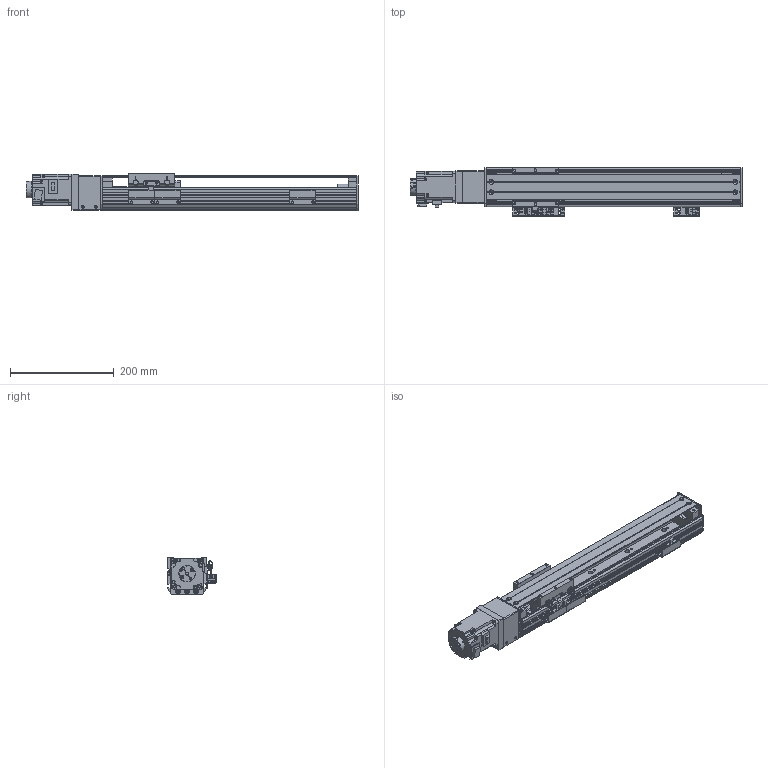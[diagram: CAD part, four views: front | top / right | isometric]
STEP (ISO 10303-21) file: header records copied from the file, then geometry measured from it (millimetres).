
FILE_DESCRIPTION(/* description */ (''),/* implementation_level */ '2;1');
FILE_NAME(/* name */ '\\192.168.0.160\disk1\HAN SHIN Master\B-설계부문\C-표준\B-2024년\BC02-표준도면\+로봇 개선표준도면\표준 승인도 작업 폴더\3D\HG75\HG75직렬\HG75-S20-N1B-0300-R10.stp',/* time_stamp */ '2024-02-01T15:25:37+09:00',/* author */ ('User'),/* organization */ (''),/* preprocessor_version */ 'ST-DEVELOPER v18.1',/* originating_system */ 'Autodesk Inventor 2022',/* authorisation */ '');
FILE_SCHEMA (('AUTOMOTIVE_DESIGN { 1 0 10303 214 3 1 1 }'));
Length unit declared in the file: millimetre
Products named in the file (22): HG75-S20-N1B-0500-R10 - 간소화; BASE; HR75 FRONT BLOCK; HR75 REAR COVER-TENTION; HR75 TENSION REAR BLOCK; HG3UPCOV001; H 15F_BLOCK; SDWA-31C; COUPLING COVER; HR75 REAR COVER; HR65,75 SENSOR DOG; HG90STOPPER - 20L; HG90STOPPER - 27L; hg-kr23_; HG75 S MOTOR PLATE-B; HG75 S MOTOR PLATE-M; hsr_ftht_A-M6F_grease_nipple_joint; NIPPLE CAP(신규); HR75 W TABLE; LMKE1520 NUT; SENSOR BRK(EE-SX674A); EE_SX674A
Assembly tree (27 placements, depth 2):
  HG75-S20-N1B-0500-R10 - 간소화
    BASE
    HR75 FRONT BLOCK
    HR75 REAR COVER-TENTION
    SENSOR BRK(EE-SX674A)  x3
    EE_SX674A  x3
    HR75 TENSION REAR BLOCK
    HG3UPCOV001
    H 15F_BLOCK
    SDWA-31C
    COUPLING COVER
    HR75 REAR COVER
    HR65,75 SENSOR DOG
    HG90STOPPER - 20L
    HG90STOPPER - 27L
    hg-kr23_
    HG75 S MOTOR PLATE-B
    HG75 S MOTOR PLATE-M
    hsr_ftht_A-M6F_grease_nipple_joint  x2
    NIPPLE CAP(신규)  x2
    HR75 W TABLE
    LMKE1520 NUT
Bounding box: 639.5 x 94 x 73 mm (x, y, z)
Volume: 1181550.7 mm3; surface area: 470750.3 mm2
Topology: 27 solids, 59 shells, 1980 faces, 5148 edges, 3357 vertices
Faces by surface type: plane 961, cylinder 706, cone 209, torus 80, sphere 16, bspline 8
Full cylindrical faces by diameter (mm): 2 x4, 2.013 x2, 2.459 x12, 2.5 x20, 3 x38, 3.1 x2, 3.242 x28, 3.3 x4, 3.5 x6, 4.134 x47, 4.5 x18, 4.917 x5, 5 x54, 5.5 x41, 5.6 x10, 5.8 x4, 5.9 x10, 6 x6, 6.45 x10, 6.5 x4, 9.5 x27, 14 x1, 14.5 x2, 14.7 x1, 15 x4, 17 x1, 25 x2, 28 x1, 31.8 x3, 32 x2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
Entity records: 55876 total; most frequent: CARTESIAN_POINT 10634, DIRECTION 9642, ORIENTED_EDGE 8838, EDGE_CURVE 4419, AXIS2_PLACEMENT_3D 3601, VERTEX_POINT 2918, LINE 2440, VECTOR 2440
